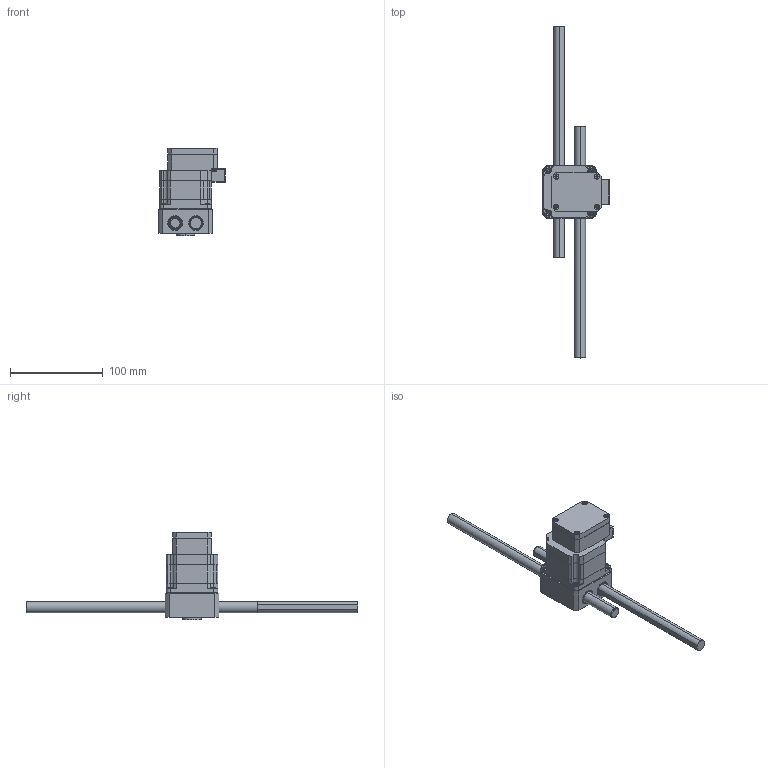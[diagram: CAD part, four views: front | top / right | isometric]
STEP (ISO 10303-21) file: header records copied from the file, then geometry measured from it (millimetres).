
FILE_DESCRIPTION (( 'STEP AP203' ), '1' );
FILE_NAME ('RRAD23-12-250-23XX0.STEP', '2012-01-27T16:52:46', ( 'render' ), ( '' ), 'SwSTEP 2.0', 'SolidWorks 2011', '' );
FILE_SCHEMA (( 'CONFIG_CONTROL_DESIGN' ));
Length unit declared in the file: millimetre
Products named in the file (1): RRAD23-12-250-23XX0
Bounding box: 71.81 x 358 x 94.3 mm (x, y, z)
Volume: 292807.8 mm3; surface area: 72795.5 mm2
Topology: 14 solids, 14 shells, 1442 faces, 3966 edges, 2540 vertices
Faces by surface type: plane 881, cylinder 468, cone 85, bspline 6, torus 2
Entity records: 46226 total; most frequent: CARTESIAN_POINT 8544, DIRECTION 7923, ORIENTED_EDGE 7896, EDGE_CURVE 3948, LINE 2785, VECTOR 2785, AXIS2_PLACEMENT_3D 2569, VERTEX_POINT 2540
